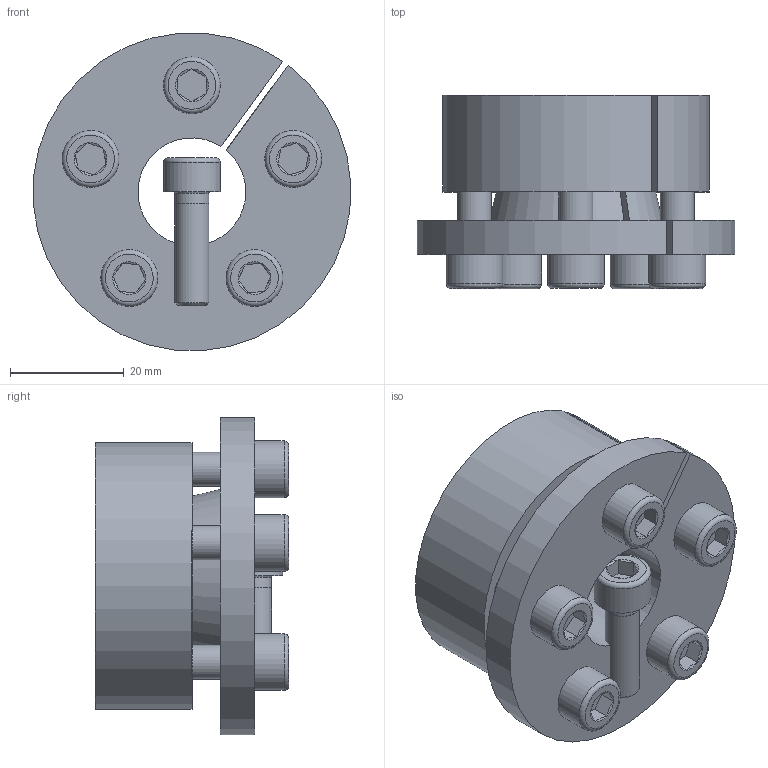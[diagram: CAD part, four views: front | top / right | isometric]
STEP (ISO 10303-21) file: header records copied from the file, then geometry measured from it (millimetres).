
FILE_DESCRIPTION( ( 'Unknown' ), '1' );
FILE_NAME( 'C:/Dokumente und Einstellungen/Sven/Desktop/homepage/cad - homepage/KBS16/KBS 16 - 19 x 47.stp', 'Unknown', ( 'Unknown' ), ( 'Unknown' ), 'XStep 1.0', 'Unknown', ' ' );
FILE_SCHEMA( ( 'automotive_design' ) );
Length unit declared in the file: millimetre
Products named in the file (3): Assem1; KBS 16 - 19 x 47; ISO EN DIN 4762 M6x20
Bounding box: 55.88 x 34 x 55.84 mm (x, y, z)
Volume: 77506.5 mm3; surface area: 33572.5 mm2
Topology: 8 solids, 8 shells, 194 faces, 388 edges, 234 vertices
Faces by surface type: plane 86, cylinder 50, cone 46, torus 12
Full cylindrical faces by diameter (mm): 5 x6, 6 x32, 10 x6
Entity records: 1552 total; most frequent: CARTESIAN_POINT 260, DIRECTION 230, ORIENTED_EDGE 170, AXIS2_PLACEMENT_3D 101, EDGE_LOOP 88, EDGE_CURVE 85, FACE_OUTER_BOUND 63, VERTEX_POINT 63
